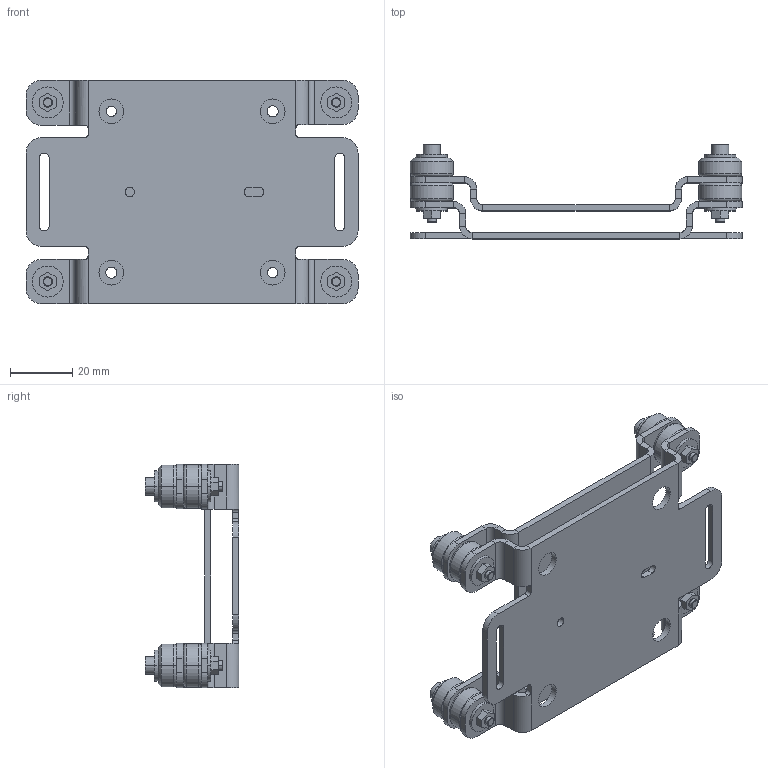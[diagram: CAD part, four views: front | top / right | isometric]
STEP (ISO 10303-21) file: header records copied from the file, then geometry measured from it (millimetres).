
FILE_DESCRIPTION((''),'2;1');
FILE_NAME('SHOCK_ABSORBER_D_ASM','2024-12-24T11:39:10',('zhaozheng'),(''),'CREO PARAMETRIC BY PTC INC, 2020053','CREO PARAMETRIC BY PTC INC, 2020053','');
FILE_SCHEMA(('CONFIG_CONTROL_DESIGN','SHAPE_APPEARANCE_LAYERS_GROUPS'));
Length unit declared in the file: millimetre
Products named in the file (10): PRT0005; AL_HOLDER_C_2; M320_50_1; RUBBER_A_20240924; RUBBER_B_20240924; SHOCH_ABSOBER_SUB_ASM; TOP_BOARD; GASKET_M3; NUT_M3_; SHOCK_ABSORBER_D_ASM
Assembly tree (18 placements, depth 3):
  SHOCK_ABSORBER_D_ASM
    PRT0005
    SHOCH_ABSOBER_SUB_ASM  x4
      AL_HOLDER_C_2
      M320_50_1
      RUBBER_A_20240924
      RUBBER_B_20240924
    TOP_BOARD
    GASKET_M3  x4
    NUT_M3_  x4
Bounding box: 107 x 30.2 x 72 mm (x, y, z)
Volume: 34853.7 mm3; surface area: 38734.8 mm2
Topology: 26 solids, 30 shells, 562 faces, 1246 edges, 756 vertices
Faces by surface type: plane 246, cylinder 212, torus 64, cone 40
Entity records: 9970 total; most frequent: DIRECTION 1774, CARTESIAN_POINT 1607, ORIENTED_EDGE 1492, EDGE_CURVE 748, AXIS2_PLACEMENT_3D 675, VERTEX_POINT 444, VECTOR 424, LINE 424
